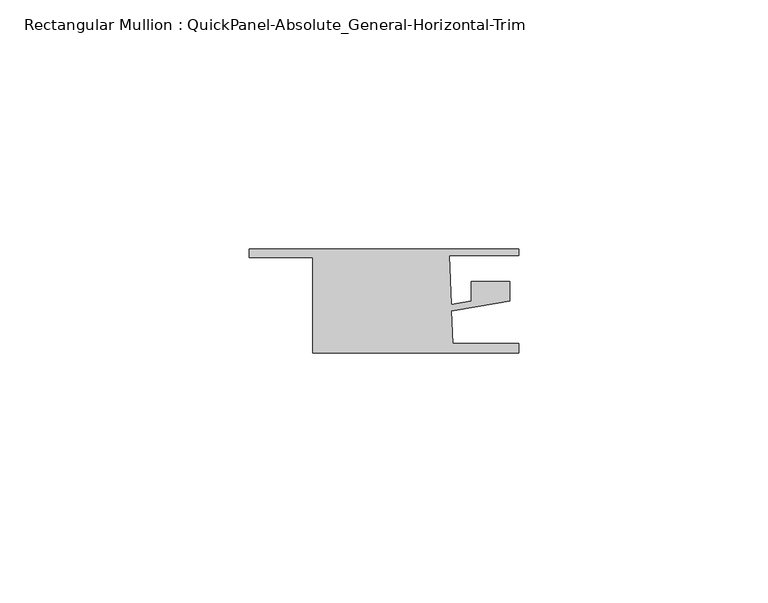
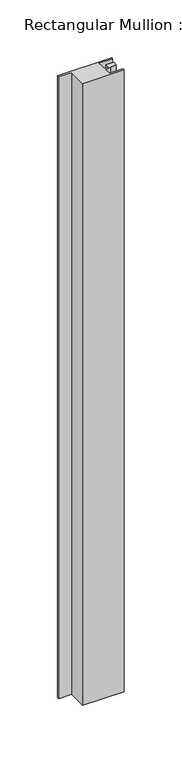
"""IFC4 building model written with IfcOpenShell, lengths in millimetres: member geometry, Rectangular Mullion : QuickPanel-Absolute_General-Horizontal-Trim."""

import ifcopenshell
import ifcopenshell.guid

model = None  # the IFC model being written
_history = None  # IfcOwnerHistory: only IFC2X3 demands one
_inside = {}  # id of a spatial element -> (the spatial element, [elements in it])
_under = {}  # id of a project, library or spatial element -> (it, [spatial elements below it])
_declared = {}  # id of a project -> (the project, [libraries it declares])
_typed = {}  # id of a type object -> (the type object, [elements of that type])
_made_of = {}  # id of a material, layer set ... -> (it, [elements and type objects made of it])


def new_model(schema):
    """Start an empty IFC model of exactly this schema.

    Asked for "IFC4X3", IfcOpenShell would pick the latest addendum, in which some entities
    have other attributes; the version numbers below select the first issue.
    IFC2X3 requires an IfcOwnerHistory on every rooted entity: one is made here for all.
    """
    global model, _history
    if schema == "IFC4X3":
        model = ifcopenshell.file(schema_version=(4, 3, 0, 0))
    else:
        model = ifcopenshell.file(schema=schema)
    _inside.clear()
    _under.clear()
    _declared.clear()
    _typed.clear()
    _made_of.clear()
    _history = None
    if model.schema == "IFC2X3":
        org = make("IfcOrganization", Name="unknown")
        user = make(
            "IfcPersonAndOrganization",
            ThePerson=make("IfcPerson", FamilyName="unknown"),
            TheOrganization=org,
        )
        app = make(
            "IfcApplication",
            ApplicationDeveloper=org,
            Version="unknown",
            ApplicationFullName="unknown",
            ApplicationIdentifier="unknown",
        )
        _history = make(
            "IfcOwnerHistory",
            OwningUser=user,
            OwningApplication=app,
            ChangeAction="ADDED",
            CreationDate=0,
        )
    return model


def make(cls, **values):
    """One entity of the class cls with the attributes given. An attribute that is None is left unset."""
    return model.create_entity(
        cls, **{name: value for name, value in values.items() if value is not None}
    )


def rooted(cls, **values):
    """An entity with a GlobalId (a new one), such as an element, a storey or a relation."""
    return make(cls, GlobalId=ifcopenshell.guid.new(), OwnerHistory=_history, **values)


def si_unit(unit_type, name, prefix=None):
    """IfcSIUnit, for example si_unit("LENGTHUNIT", "METRE", prefix="MILLI")."""
    return make("IfcSIUnit", UnitType=unit_type, Prefix=prefix, Name=name)


def assignment(units):
    """IfcUnitAssignment: the units of a project."""
    return None if units is None else make("IfcUnitAssignment", Units=units)


def point(xyz):
    """IfcCartesianPoint."""
    return None if xyz is None else make("IfcCartesianPoint", Coordinates=xyz)


def direction(xyz):
    """IfcDirection."""
    return None if xyz is None else make("IfcDirection", DirectionRatios=xyz)


def frame(location, z_axis=None, x_axis=None):
    """IfcAxis2Placement3D, a coordinate frame: its origin and axes. An axis left out is left unset."""
    return make(
        "IfcAxis2Placement3D",
        Location=point(location),
        Axis=direction(z_axis),
        RefDirection=direction(x_axis),
    )


def origin():
    """The frame at (0, 0, 0) with its axes left unset."""
    return frame((0.0, 0.0, 0.0))


def place(relative_to, where):
    """IfcLocalPlacement: puts the frame where relative to a parent placement (None: the world)."""
    return make(
        "IfcLocalPlacement", PlacementRelTo=relative_to, RelativePlacement=where
    )


def context(
    kind, dimensions, precision=None, world=None, true_north=None, identifier=None
):
    """IfcGeometricRepresentationContext, for example the 3D "Model" context."""
    return make(
        "IfcGeometricRepresentationContext",
        ContextIdentifier=identifier,
        ContextType=kind,
        CoordinateSpaceDimension=dimensions,
        Precision=precision,
        WorldCoordinateSystem=world,
        TrueNorth=true_north,
    )


def project(units=None, contexts=None):
    """IfcProject with its units and contexts."""
    return rooted(
        "IfcProject",
        Name="project",
        RepresentationContexts=contexts,
        UnitsInContext=assignment(units),
    )


def spatial(cls, under=None, at=None, **own):
    """A site, building, storey or space (cls), placed at a placement, below another one or the project."""
    s = rooted(cls, ObjectPlacement=at, **own)
    if under is not None:
        _under.setdefault(under.id(), (under, []))[1].append(s)
    return s


def polyline(points):
    """IfcPolyline through the points."""
    return make("IfcPolyline", Points=[point(p) for p in points])


def outline(outer, holes=None, kind="AREA"):
    """IfcArbitraryClosedProfileDef: a profile drawn as a closed curve; with holes, ...WithVoids."""
    if holes is None:
        return make("IfcArbitraryClosedProfileDef", ProfileType=kind, OuterCurve=outer)
    return make(
        "IfcArbitraryProfileDefWithVoids",
        ProfileType=kind,
        OuterCurve=outer,
        InnerCurves=holes,
    )


def extrude(swept, where, along, depth):
    """IfcExtrudedAreaSolid: the profile swept, set in the frame where, extruded along a direction by depth."""
    return make(
        "IfcExtrudedAreaSolid",
        SweptArea=swept,
        Position=where,
        ExtrudedDirection=direction(along),
        Depth=depth,
    )


def shape(context_of_items, identifier, shape_type, items):
    """IfcShapeRepresentation: the items that make up one representation, for example the "Body"."""
    return make(
        "IfcShapeRepresentation",
        ContextOfItems=context_of_items,
        RepresentationIdentifier=identifier,
        RepresentationType=shape_type,
        Items=items,
    )


def source(mapping_origin, context_of_items, identifier, shape_type, items):
    """IfcRepresentationMap: a shape defined once, which mapped items show again and again."""
    return make(
        "IfcRepresentationMap",
        MappingOrigin=mapping_origin,
        MappedRepresentation=shape(context_of_items, identifier, shape_type, items),
    )


def transform(
    local_origin,
    x_axis=None,
    y_axis=None,
    z_axis=None,
    scale=None,
    scale2=None,
    scale3=None,
    uniform=True,
):
    """IfcCartesianTransformationOperator3D, or its non-uniform kind. x_axis, y_axis, z_axis: its Axis1, 2, 3."""
    if uniform:
        return make(
            "IfcCartesianTransformationOperator3D",
            Axis1=direction(x_axis),
            Axis2=direction(y_axis),
            LocalOrigin=point(local_origin),
            Scale=scale,
            Axis3=direction(z_axis),
        )
    return make(
        "IfcCartesianTransformationOperator3DnonUniform",
        Axis1=direction(x_axis),
        Axis2=direction(y_axis),
        LocalOrigin=point(local_origin),
        Scale=scale,
        Axis3=direction(z_axis),
        Scale2=scale2,
        Scale3=scale3,
    )


def mapped(mapping_source, mapping_target):
    """IfcMappedItem: shows the shape of a source again, moved by a transform."""
    return make(
        "IfcMappedItem", MappingSource=mapping_source, MappingTarget=mapping_target
    )


def made_of(thing, what):
    """Note that an element or type object is made of a material, layer set ...; save() writes the relation."""
    if what is not None:
        _made_of.setdefault(what.id(), (what, []))[1].append(thing)
    return thing


def element(
    cls,
    number,
    at=None,
    inside=None,
    cuts=None,
    type_object=None,
    material=None,
    context=None,
    identifier="Body",
    shape_type=None,
    held_by="IfcProductDefinitionShape",
    body=None,
    shapes=None,
    **own,
):
    """One element of the class cls, such as IfcWall. Its Tag is "e" and its number.

    at: its placement. inside: the storey or other place that contains it. cuts: it is an
    opening in that element (IfcRelVoidsElement). A single representation is given by context,
    identifier, shape_type and body (its items); several are given by shapes. held_by: the class
    of the entity that holds the representations. save() writes the other relations.
    """
    e = rooted(cls, Tag="e%d" % number, ObjectPlacement=at, **own)
    if body is not None:
        shapes = [shape(context, identifier, shape_type, body)]
    if shapes is not None:
        e.Representation = make(held_by, Representations=shapes)
    if inside is not None:
        _inside.setdefault(inside.id(), (inside, []))[1].append(e)
    if cuts is not None:
        rooted(
            "IfcRelVoidsElement", RelatingBuildingElement=cuts, RelatedOpeningElement=e
        )
    if type_object is not None:
        _typed.setdefault(type_object.id(), (type_object, []))[1].append(e)
    return made_of(e, material)


def aggregate(whole, parts):
    """IfcRelAggregates: a whole, such as a stair, and the parts it consists of."""
    return rooted("IfcRelAggregates", RelatingObject=whole, RelatedObjects=parts)


def save(model, path):
    """Write the relations noted so far, then the file.

    IfcRelAggregates (storeys below a building ...), IfcRelContainedInSpatialStructure (elements
    in a storey), IfcRelDefinesByType, IfcRelAssociatesMaterial and IfcRelDeclares: one each for
    every whole, place, type object, material and project.
    """
    for whole, parts in _under.values():
        aggregate(whole, parts)
    for where, things in _inside.values():
        rooted(
            "IfcRelContainedInSpatialStructure",
            RelatedElements=things,
            RelatingStructure=where,
        )
    for kind, things in _typed.values():
        rooted("IfcRelDefinesByType", RelatedObjects=things, RelatingType=kind)
    for what, things in _made_of.values():
        rooted("IfcRelAssociatesMaterial", RelatedObjects=things, RelatingMaterial=what)
    for by, libraries in _declared.values():
        rooted("IfcRelDeclares", RelatingContext=by, RelatedDefinitions=libraries)
    model.write(path)


def rectangular_mullion_quickpanel_absolute_general_horizontal_835954e1(model_context):
    return source(origin(), model_context, "Body", "SweptSolid", [
        extrude(outline(polyline([(28.3897075, -8.6293878), (-12.9047811, -8.6293878), (-12.9047811, 10.4985348), (-25.5852925, 10.4985348), (-25.5852925, 12.1803727), (28.3897075, 12.1803727), (28.3897075, 10.9303752), (14.533354, 10.9303752), (14.8772811, 1.0815922), (18.86285, 1.7648465), (18.86285, 5.6493034), (26.6076231, 5.6493034), (26.6076231, 1.8040245), (20.1722905, 0.7008023), (14.9220096, -0.1992641), (15.1487948, -6.6935423), (28.3897075, -6.6935423), (28.3897075, -8.6293878)])), frame((0.0, 0.0, -654.9485599), z_axis=(0.0, 0.0, 1.0), x_axis=(1.0, 0.0, 0.0)), (0.0, 0.0, 1.0), 654.9485599),
    ])


if __name__ == "__main__":
    model = new_model("IFC4")
    model_context = context("Model", 3, world=origin())
    ifc_project = project(units=[si_unit("LENGTHUNIT", "METRE", prefix="MILLI")], contexts=[model_context])
    site = spatial("IfcSite", under=ifc_project)
    building = spatial("IfcBuilding", under=site)
    placement = place(None, origin())
    rectangular_mullion_quickpanel_absolute_general_horizontal_shape = rectangular_mullion_quickpanel_absolute_general_horizontal_835954e1(model_context)
    element("IfcMember", 1, ObjectType="Rectangular Mullion : QuickPanel-Absolute_General-Horizontal-Trim", at=placement, inside=building, context=model_context, shape_type="MappedRepresentation", body=[
        mapped(rectangular_mullion_quickpanel_absolute_general_horizontal_shape, transform((0.0, 0.0, 0.0), x_axis=(1.0, 0.0, 0.0), y_axis=(0.0, 1.0, 0.0), z_axis=(0.0, 0.0, 1.0))),
    ])
    save(model, "model.ifc")
